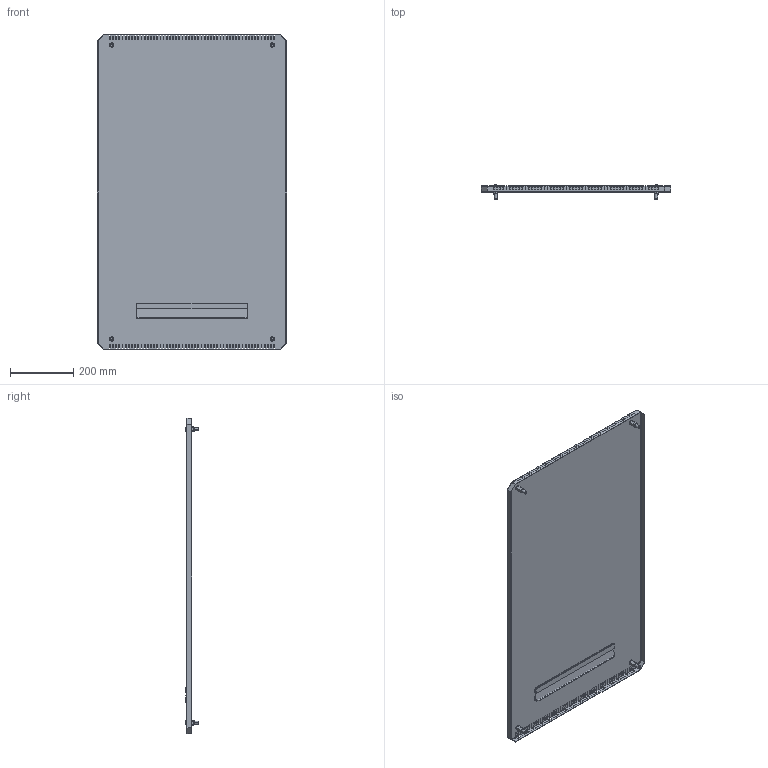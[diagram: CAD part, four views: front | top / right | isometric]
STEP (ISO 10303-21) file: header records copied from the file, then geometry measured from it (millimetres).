
FILE_DESCRIPTION (( 'STEP AP203' ), '1' );
FILE_NAME ('R 60.100 IK Ïàíåëü òåëåêîììóíèêàöèîííàÿ ïîòîëî÷íàÿ ñ ùåò. ââîäîì.STEP', '2013-01-12T09:24:07', ( 'System' ), ( '' ), 'SwSTEP 2.0', 'SolidWorks 2012', '' );
FILE_SCHEMA (( 'CONFIG_CONTROL_DESIGN' ));
Length unit declared in the file: millimetre
Products named in the file (1): R 60.100 IK Ïàíåëü òåëåêîììóíèêàöèîííàÿ ïîòîëî÷íàÿ ñ ùåò. ââîäîì
Bounding box: 600 x 42.72 x 1000 mm (x, y, z)
Volume: 889338.5 mm3; surface area: 1338195.4 mm2
Topology: 6 solids, 10 shells, 1384 faces, 3708 edges, 2136 vertices
Faces by surface type: plane 1016, cylinder 272, cone 56, bspline 16, torus 16, sphere 8
Entity records: 43111 total; most frequent: CARTESIAN_POINT 8609, ORIENTED_EDGE 7384, DIRECTION 6960, EDGE_CURVE 3692, VECTOR 2926, LINE 2926, VERTEX_POINT 2136, AXIS2_PLACEMENT_3D 2017
